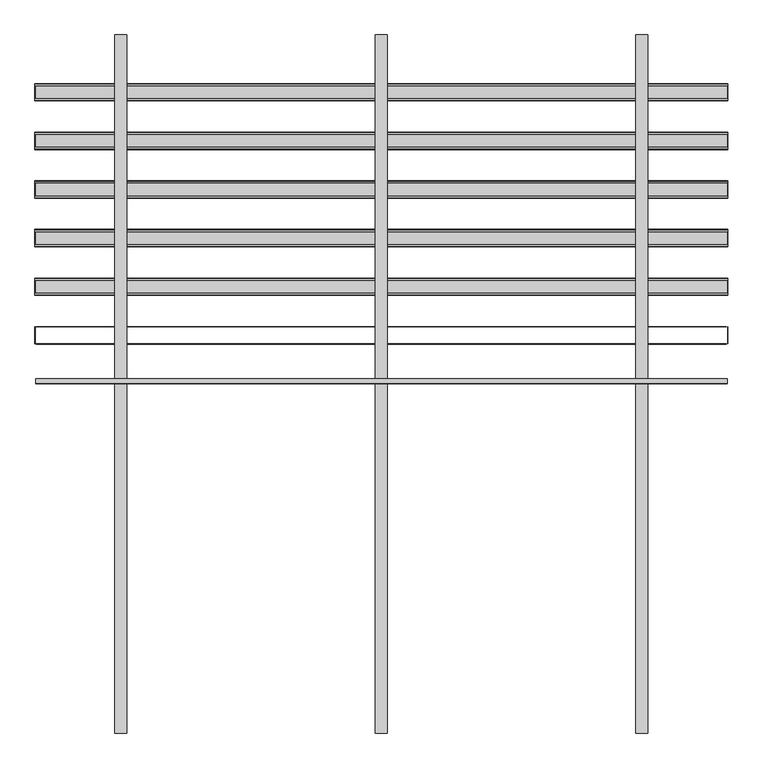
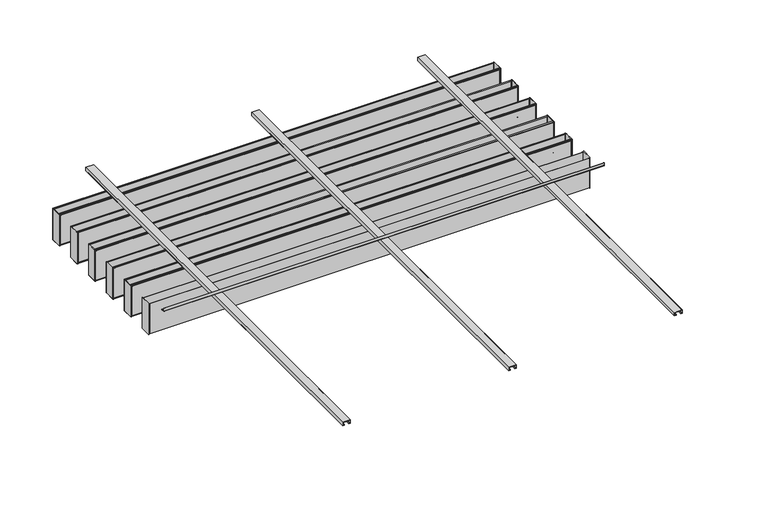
"""IFC4 building model written with IfcOpenShell, lengths in millimetres: proxy geometry, durlum_POLYLAM_KS : durlum_POLYLAM-KS/-S 100."""

from ifc_helpers import new_model, si_unit, point, frame, frame_2d, origin, place, context, project, spatial, polyline, circle_curve, trimmed, segment, composite_curve, outline, extrude, source, transform, mapped, element, save
from ifc_brep_helpers import plane_surface, cylinder_surface, advanced_brep


def generic_models_34059fb2(model_context):
    return source(origin(), model_context, "Body", "SolidModel", [
        extrude(outline(polyline([(2791.0464286, 20.5), (2784.0464286, 20.5), (2784.0464286, 35.0), (2814.0464286, 35.0), (2814.0464286, -35.0), (2784.0464286, -35.0), (2784.0464286, -20.5), (2791.0464286, -20.5), (2791.0464286, -22.0), (2785.5464286, -22.0), (2785.5464286, -33.5), (2812.5464286, -33.5), (2812.5464286, 33.5), (2785.5464286, 33.5), (2785.5464286, 22.0), (2791.0464286, 22.0), (2791.0464286, 20.5)])), frame((0.0, -2010.0, 0.0), z_axis=(0.0, 1.0, 0.0), x_axis=(0.0, 0.0, 1.0)), (0.0, 0.0, 1.0), 4020.0),
        extrude(outline(polyline([(2791.0464286, -1479.5), (2784.0464286, -1479.5), (2784.0464286, -1465.0), (2814.0464286, -1465.0), (2814.0464286, -1535.0), (2784.0464286, -1535.0), (2784.0464286, -1520.5), (2791.0464286, -1520.5), (2791.0464286, -1522.0), (2785.5464286, -1522.0), (2785.5464286, -1533.5), (2812.5464286, -1533.5), (2812.5464286, -1466.5), (2785.5464286, -1466.5), (2785.5464286, -1478.0), (2791.0464286, -1478.0), (2791.0464286, -1479.5)])), frame((0.0, -2010.0, 0.0), z_axis=(0.0, 1.0, 0.0), x_axis=(0.0, 0.0, 1.0)), (0.0, 0.0, 1.0), 4020.0),
        extrude(outline(polyline([(2791.0464286, 1520.5), (2784.0464286, 1520.5), (2784.0464286, 1535.0), (2814.0464286, 1535.0), (2814.0464286, 1465.0), (2784.0464286, 1465.0), (2784.0464286, 1479.5), (2791.0464286, 1479.5), (2791.0464286, 1478.0), (2785.5464286, 1478.0), (2785.5464286, 1466.5), (2812.5464286, 1466.5), (2812.5464286, 1533.5), (2785.5464286, 1533.5), (2785.5464286, 1522.0), (2791.0464286, 1522.0), (2791.0464286, 1520.5)])), frame((0.0, -2010.0, 0.0), z_axis=(0.0, 1.0, 0.0), x_axis=(0.0, 0.0, 1.0)), (0.0, 0.0, 1.0), 4020.0),
        extrude(outline(composite_curve([segment(polyline([(2.0, 2843.9464286), (2.0, 2818.0464286)]), True, "CONTINUOUS"), segment(trimmed(circle_curve(frame_2d((4.0, 2818.0464286)), 2.0), [point((2.0, 2818.0464286))], [point((4.0, 2816.0464286))], True, "CARTESIAN"), True, "CONTINUOUS"), segment(polyline([(4.0, 2816.0464286), (29.9, 2816.0464286), (29.9, 2814.0464286), (4.0, 2814.0464286)]), True, "CONTINUOUS"), segment(trimmed(circle_curve(frame_2d((4.0, 2818.0464286)), 4.0), [point((4.0, 2814.0464286))], [point((0.0, 2818.0464286))], False, "CARTESIAN"), True, "CONTINUOUS"), segment(polyline([(0.0, 2818.0464286), (0.0, 2843.9464286), (2.0, 2843.9464286)]), True, "CONTINUOUS")], self_intersect=False)), frame((-1990.0, 0.0, 0.0), z_axis=(1.0, 0.0, 0.0), x_axis=(0.0, 1.0, 0.0)), (0.0, 0.0, 1.0), 3980.0),
        extrude(outline(polyline([(1986.5, 1729.0), (-1986.5, 1729.0), (-1986.5, 1730.0), (1986.5, 1730.0), (1986.5, 1729.0)])), frame((0.0, 0.0, 2463.4464286), z_axis=(0.0, 0.0, 1.0), x_axis=(1.0, 0.0, 0.0)), (0.0, 0.0, 1.0), 283.0),
        extrude(outline(polyline([(1986.5, 1630.0), (-1986.5, 1630.0), (-1986.5, 1631.0), (1986.5, 1631.0), (1986.5, 1630.0)])), frame((0.0, 0.0, 2463.4464286), z_axis=(0.0, 0.0, 1.0), x_axis=(1.0, 0.0, 0.0)), (0.0, 0.0, 1.0), 283.0),
        extrude(outline(polyline([(1993.0, 1729.0), (1995.0, 1729.0), (1995.0, 1631.0), (1993.0, 1631.0), (1993.0, 1729.0)])), frame((0.0, 0.0, 2455.9464286), z_axis=(0.0, 0.0, 1.0), x_axis=(1.0, 0.0, 0.0)), (0.0, 0.0, 1.0), 298.1604454),
        extrude(outline(polyline([(-1995.0, 1729.0), (-1993.0, 1729.0), (-1993.0, 1631.0), (-1995.0, 1631.0), (-1995.0, 1729.0)])), frame((0.0, 0.0, 2455.9464286), z_axis=(0.0, 0.0, 1.0), x_axis=(1.0, 0.0, 0.0)), (0.0, 0.0, 1.0), 298.1604454),
        advanced_brep(
        [(1995.0, 1728.0, 2754.9464286), (1995.0, 1718.0, 2754.9464286), (1995.0, 1718.0, 2754.106874), (1995.0, 1729.0, 2754.106874), (1995.0, 1729.0, 2455.9464286), (1995.0, 1631.0, 2455.9464286), (1995.0, 1631.0, 2753.8620021), (1995.0, 1642.0, 2753.8620021), (1995.0, 1642.0, 2754.9464286), (1995.0, 1632.0, 2754.9464286), (1995.0, 1630.0, 2752.9464286), (1995.0, 1630.0, 2456.9464286), (1995.0, 1632.0, 2454.9464286), (1995.0, 1728.0, 2454.9464286), (1995.0, 1730.0, 2456.9464286), (1995.0, 1730.0, 2752.9464286), (-1995.0, 1728.0, 2754.9464286), (-1995.0, 1730.0, 2752.9464286), (-1995.0, 1730.0, 2456.9464286), (-1995.0, 1728.0, 2454.9464286), (-1995.0, 1632.0, 2454.9464286), (-1995.0, 1630.0, 2456.9464286), (-1995.0, 1630.0, 2752.9464286), (-1995.0, 1632.0, 2754.9464286), (-1995.0, 1642.0, 2754.9464286), (-1995.0, 1642.0, 2753.8620021), (-1995.0, 1631.0, 2753.8620021), (-1995.0, 1631.0, 2455.9464286), (-1995.0, 1729.0, 2455.9464286), (-1995.0, 1729.0, 2754.106874), (-1995.0, 1718.0, 2754.106874), (-1995.0, 1718.0, 2754.9464286), (-1986.5, 1729.0, 2746.4464286), (1986.5, 1729.0, 2746.4464286), (1986.5, 1729.0, 2463.4464286), (-1986.5, 1729.0, 2463.4464286), (1986.5, 1631.0, 2746.4464286), (-1986.5, 1631.0, 2746.4464286), (-1986.5, 1631.0, 2463.4464286), (1986.5, 1631.0, 2463.4464286), (-1986.5, 1630.0, 2746.4464286), (1986.5, 1630.0, 2746.4464286), (1986.5, 1630.0, 2463.4464286), (-1986.5, 1630.0, 2463.4464286), (1986.5, 1730.0, 2746.4464286), (-1986.5, 1730.0, 2746.4464286), (-1986.5, 1730.0, 2463.4464286), (1986.5, 1730.0, 2463.4464286)],
        [
            (0, 1),
            (1, 2),
            (2, 3),
            (3, 4),
            (4, 5),
            (5, 6),
            (6, 7),
            (7, 8),
            (8, 9),
            (9, 10, circle_curve(frame((1995.0, 1632.0, 2752.9464286), z_axis=(1.0, 0.0, 0.0), x_axis=(0.0, 1.0, 0.0)), 2.0)),
            (10, 11),
            (11, 12, circle_curve(frame((1995.0, 1632.0, 2456.9464286), z_axis=(1.0, 0.0, 0.0), x_axis=(0.0, 1.0, 0.0)), 2.0)),
            (12, 13),
            (13, 14, circle_curve(frame((1995.0, 1728.0, 2456.9464286), z_axis=(1.0, 0.0, 0.0), x_axis=(0.0, 1.0, 0.0)), 2.0)),
            (14, 15),
            (15, 0, circle_curve(frame((1995.0, 1728.0, 2752.9464286), z_axis=(1.0, 0.0, 0.0), x_axis=(0.0, 1.0, 0.0)), 2.0)),
            (16, 17, circle_curve(frame((-1995.0, 1728.0, 2752.9464286), z_axis=(-1.0, 0.0, 0.0), x_axis=(0.0, 1.0, 0.0)), 2.0)),
            (17, 18),
            (18, 19, circle_curve(frame((-1995.0, 1728.0, 2456.9464286), z_axis=(-1.0, 0.0, 0.0), x_axis=(0.0, 1.0, 0.0)), 2.0)),
            (19, 20),
            (20, 21, circle_curve(frame((-1995.0, 1632.0, 2456.9464286), z_axis=(-1.0, 0.0, 0.0), x_axis=(0.0, 1.0, 0.0)), 2.0)),
            (21, 22),
            (22, 23, circle_curve(frame((-1995.0, 1632.0, 2752.9464286), z_axis=(-1.0, 0.0, 0.0), x_axis=(0.0, 1.0, 0.0)), 2.0)),
            (23, 24),
            (24, 25),
            (25, 26),
            (26, 27),
            (27, 28),
            (28, 29),
            (29, 30),
            (30, 31),
            (31, 16),
            (0, 16),
            (31, 1),
            (30, 2),
            (29, 3),
            (28, 4),
            (32, 33),
            (33, 34),
            (34, 35),
            (35, 32),
            (27, 5),
            (26, 6),
            (36, 37),
            (37, 38),
            (38, 39),
            (39, 36),
            (25, 7),
            (24, 8),
            (23, 9),
            (10, 22),
            (21, 11),
            (40, 41),
            (41, 42),
            (42, 43),
            (43, 40),
            (12, 20),
            (19, 13),
            (14, 18),
            (17, 15),
            (44, 45),
            (45, 46),
            (46, 47),
            (47, 44),
            (44, 33),
            (32, 45),
            (36, 41),
            (40, 37),
            (35, 46),
            (43, 38),
            (34, 47),
            (42, 39),
        ],
        [
            plane_surface(frame((1995.0, 1718.0, 2754.9464286), z_axis=(1.0, 0.0, 0.0), x_axis=(0.0, -1.0, 0.0))),
            plane_surface(frame((-1995.0, 1718.0, 2754.9464286), z_axis=(-1.0, 0.0, 0.0), x_axis=(0.0, 1.0, 0.0))),
            plane_surface(frame((1995.0, 1728.0, 2754.9464286), z_axis=(0.0, 0.0, 1.0), x_axis=(-1.0, 0.0, 0.0))),
            plane_surface(frame((1995.0, 1718.0, 2754.9464286), z_axis=(0.0, -1.0, 0.0), x_axis=(-1.0, 0.0, 0.0))),
            plane_surface(frame((1995.0, 1718.0, 2754.106874), z_axis=(0.0, 0.0, -1.0), x_axis=(-1.0, 0.0, 0.0))),
            plane_surface(frame((1995.0, 1729.0, 2754.106874), z_axis=(0.0, -1.0, 0.0), x_axis=(-1.0, 0.0, 0.0))),
            plane_surface(frame((1995.0, 1729.0, 2455.9464286), z_axis=(0.0, 0.0, 1.0), x_axis=(-1.0, 0.0, 0.0))),
            plane_surface(frame((1995.0, 1631.0, 2455.9464286), z_axis=(0.0, 1.0, 0.0), x_axis=(-1.0, 0.0, 0.0))),
            plane_surface(frame((1995.0, 1631.0, 2753.8620021), z_axis=(0.0, 0.0, -1.0), x_axis=(-1.0, 0.0, 0.0))),
            plane_surface(frame((1995.0, 1642.0, 2753.8620021), z_axis=(0.0, 1.0, 0.0), x_axis=(-1.0, 0.0, 0.0))),
            plane_surface(frame((1995.0, 1642.0, 2754.9464286), z_axis=(0.0, 0.0, 1.0), x_axis=(-1.0, 0.0, 0.0))),
            plane_surface(frame((1995.0, 1630.0, 2752.9464286), z_axis=(0.0, -1.0, 0.0), x_axis=(-1.0, 0.0, 0.0))),
            plane_surface(frame((1995.0, 1632.0, 2454.9464286), z_axis=(0.0, 0.0, -1.0), x_axis=(-1.0, 0.0, 0.0))),
            plane_surface(frame((1995.0, 1730.0, 2456.9464286), z_axis=(0.0, 1.0, 0.0), x_axis=(-1.0, 0.0, 0.0))),
            cylinder_surface(frame((-1995.0, 1632.0, 2752.9464286), z_axis=(1.0, 0.0, 0.0), x_axis=(0.0, 1.0, 0.0)), 2.0),
            cylinder_surface(frame((-1995.0, 1632.0, 2456.9464286), z_axis=(1.0, 0.0, 0.0), x_axis=(0.0, 1.0, 0.0)), 2.0),
            cylinder_surface(frame((-1995.0, 1728.0, 2456.9464286), z_axis=(1.0, 0.0, 0.0), x_axis=(0.0, 1.0, 0.0)), 2.0),
            cylinder_surface(frame((-1995.0, 1728.0, 2752.9464286), z_axis=(1.0, 0.0, 0.0), x_axis=(0.0, 1.0, 0.0)), 2.0),
            plane_surface(frame((1986.5, 1630.0, 2746.4464286), z_axis=(0.0, 0.0, -1.0), x_axis=(0.0, 1.0, 0.0))),
            plane_surface(frame((-1986.5, 1630.0, 2746.4464286), z_axis=(1.0, 0.0, 0.0), x_axis=(0.0, 1.0, 0.0))),
            plane_surface(frame((-1986.5, 1630.0, 2463.4464286), z_axis=(0.0, 0.0, 1.0), x_axis=(0.0, 1.0, 0.0))),
            plane_surface(frame((1986.5, 1630.0, 2463.4464286), z_axis=(-1.0, 0.0, 0.0), x_axis=(0.0, 1.0, 0.0))),
        ],
        [
            (0, [[1, 2, 3, 4, 5, 6, 7, 8, 9, 10, 11, 12, 13, 14, 15, 16]]),
            (1, [[17, 18, 19, 20, 21, 22, 23, 24, 25, 26, 27, 28, 29, 30, 31, 32]]),
            (2, [[-1, 33, -32, 34]]),
            (3, [[-2, -34, -31, 35]]),
            (4, [[-3, -35, -30, 36]]),
            (5, [[-4, -36, -29, 37], [38, 39, 40, 41]]),
            (6, [[-5, -37, -28, 42]]),
            (7, [[-6, -42, -27, 43], [44, 45, 46, 47]]),
            (8, [[-7, -43, -26, 48]]),
            (9, [[-8, -48, -25, 49]]),
            (10, [[-9, -49, -24, 50]]),
            (11, [[-11, 51, -22, 52], [53, 54, 55, 56]]),
            (12, [[-13, 57, -20, 58]]),
            (13, [[-15, 59, -18, 60], [61, 62, 63, 64]]),
            (14, [[-10, -50, -23, -51]]),
            (15, [[-12, -52, -21, -57]]),
            (16, [[-14, -58, -19, -59]]),
            (17, [[-16, -60, -17, -33]]),
            (18, [[65, -38, 66, -61]]),
            (18, [[67, -53, 68, -44]]),
            (19, [[-66, -41, 69, -62]]),
            (19, [[-68, -56, 70, -45]]),
            (20, [[-69, -40, 71, -63]]),
            (20, [[-70, -55, 72, -46]]),
            (21, [[-65, -64, -71, -39]]),
            (21, [[-67, -47, -72, -54]]),
        ],
    ),
        extrude(outline(polyline([(1986.5, 1449.0), (-1986.5, 1449.0), (-1986.5, 1450.0), (1986.5, 1450.0), (1986.5, 1449.0)])), frame((0.0, 0.0, 2463.4464286), z_axis=(0.0, 0.0, 1.0), x_axis=(1.0, 0.0, 0.0)), (0.0, 0.0, 1.0), 283.0),
        extrude(outline(polyline([(1986.5, 1350.0), (-1986.5, 1350.0), (-1986.5, 1351.0), (1986.5, 1351.0), (1986.5, 1350.0)])), frame((0.0, 0.0, 2463.4464286), z_axis=(0.0, 0.0, 1.0), x_axis=(1.0, 0.0, 0.0)), (0.0, 0.0, 1.0), 283.0),
        extrude(outline(polyline([(1993.0, 1449.0), (1995.0, 1449.0), (1995.0, 1351.0), (1993.0, 1351.0), (1993.0, 1449.0)])), frame((0.0, 0.0, 2455.9464286), z_axis=(0.0, 0.0, 1.0), x_axis=(1.0, 0.0, 0.0)), (0.0, 0.0, 1.0), 298.1604454),
        extrude(outline(polyline([(-1995.0, 1449.0), (-1993.0, 1449.0), (-1993.0, 1351.0), (-1995.0, 1351.0), (-1995.0, 1449.0)])), frame((0.0, 0.0, 2455.9464286), z_axis=(0.0, 0.0, 1.0), x_axis=(1.0, 0.0, 0.0)), (0.0, 0.0, 1.0), 298.1604454),
        advanced_brep(
        [(1995.0, 1448.0, 2754.9464286), (1995.0, 1438.0, 2754.9464286), (1995.0, 1438.0, 2754.106874), (1995.0, 1449.0, 2754.106874), (1995.0, 1449.0, 2455.9464286), (1995.0, 1351.0, 2455.9464286), (1995.0, 1351.0, 2753.8620021), (1995.0, 1362.0, 2753.8620021), (1995.0, 1362.0, 2754.9464286), (1995.0, 1352.0, 2754.9464286), (1995.0, 1350.0, 2752.9464286), (1995.0, 1350.0, 2456.9464286), (1995.0, 1352.0, 2454.9464286), (1995.0, 1448.0, 2454.9464286), (1995.0, 1450.0, 2456.9464286), (1995.0, 1450.0, 2752.9464286), (-1995.0, 1448.0, 2754.9464286), (-1995.0, 1450.0, 2752.9464286), (-1995.0, 1450.0, 2456.9464286), (-1995.0, 1448.0, 2454.9464286), (-1995.0, 1352.0, 2454.9464286), (-1995.0, 1350.0, 2456.9464286), (-1995.0, 1350.0, 2752.9464286), (-1995.0, 1352.0, 2754.9464286), (-1995.0, 1362.0, 2754.9464286), (-1995.0, 1362.0, 2753.8620021), (-1995.0, 1351.0, 2753.8620021), (-1995.0, 1351.0, 2455.9464286), (-1995.0, 1449.0, 2455.9464286), (-1995.0, 1449.0, 2754.106874), (-1995.0, 1438.0, 2754.106874), (-1995.0, 1438.0, 2754.9464286), (-1986.5, 1449.0, 2746.4464286), (1986.5, 1449.0, 2746.4464286), (1986.5, 1449.0, 2463.4464286), (-1986.5, 1449.0, 2463.4464286), (1986.5, 1351.0, 2746.4464286), (-1986.5, 1351.0, 2746.4464286), (-1986.5, 1351.0, 2463.4464286), (1986.5, 1351.0, 2463.4464286), (-1986.5, 1350.0, 2746.4464286), (1986.5, 1350.0, 2746.4464286), (1986.5, 1350.0, 2463.4464286), (-1986.5, 1350.0, 2463.4464286), (1986.5, 1450.0, 2746.4464286), (-1986.5, 1450.0, 2746.4464286), (-1986.5, 1450.0, 2463.4464286), (1986.5, 1450.0, 2463.4464286)],
        [
            (0, 1),
            (1, 2),
            (2, 3),
            (3, 4),
            (4, 5),
            (5, 6),
            (6, 7),
            (7, 8),
            (8, 9),
            (9, 10, circle_curve(frame((1995.0, 1352.0, 2752.9464286), z_axis=(1.0, 0.0, 0.0), x_axis=(0.0, 1.0, 0.0)), 2.0)),
            (10, 11),
            (11, 12, circle_curve(frame((1995.0, 1352.0, 2456.9464286), z_axis=(1.0, 0.0, 0.0), x_axis=(0.0, 1.0, 0.0)), 2.0)),
            (12, 13),
            (13, 14, circle_curve(frame((1995.0, 1448.0, 2456.9464286), z_axis=(1.0, 0.0, 0.0), x_axis=(0.0, 1.0, 0.0)), 2.0)),
            (14, 15),
            (15, 0, circle_curve(frame((1995.0, 1448.0, 2752.9464286), z_axis=(1.0, 0.0, 0.0), x_axis=(0.0, 1.0, 0.0)), 2.0)),
            (16, 17, circle_curve(frame((-1995.0, 1448.0, 2752.9464286), z_axis=(-1.0, 0.0, 0.0), x_axis=(0.0, 1.0, 0.0)), 2.0)),
            (17, 18),
            (18, 19, circle_curve(frame((-1995.0, 1448.0, 2456.9464286), z_axis=(-1.0, 0.0, 0.0), x_axis=(0.0, 1.0, 0.0)), 2.0)),
            (19, 20),
            (20, 21, circle_curve(frame((-1995.0, 1352.0, 2456.9464286), z_axis=(-1.0, 0.0, 0.0), x_axis=(0.0, 1.0, 0.0)), 2.0)),
            (21, 22),
            (22, 23, circle_curve(frame((-1995.0, 1352.0, 2752.9464286), z_axis=(-1.0, 0.0, 0.0), x_axis=(0.0, 1.0, 0.0)), 2.0)),
            (23, 24),
            (24, 25),
            (25, 26),
            (26, 27),
            (27, 28),
            (28, 29),
            (29, 30),
            (30, 31),
            (31, 16),
            (0, 16),
            (31, 1),
            (30, 2),
            (29, 3),
            (28, 4),
            (32, 33),
            (33, 34),
            (34, 35),
            (35, 32),
            (27, 5),
            (26, 6),
            (36, 37),
            (37, 38),
            (38, 39),
            (39, 36),
            (25, 7),
            (24, 8),
            (23, 9),
            (10, 22),
            (21, 11),
            (40, 41),
            (41, 42),
            (42, 43),
            (43, 40),
            (12, 20),
            (19, 13),
            (14, 18),
            (17, 15),
            (44, 45),
            (45, 46),
            (46, 47),
            (47, 44),
            (44, 33),
            (32, 45),
            (36, 41),
            (40, 37),
            (35, 46),
            (43, 38),
            (34, 47),
            (42, 39),
        ],
        [
            plane_surface(frame((1995.0, 1438.0, 2754.9464286), z_axis=(1.0, 0.0, 0.0), x_axis=(0.0, -1.0, 0.0))),
            plane_surface(frame((-1995.0, 1438.0, 2754.9464286), z_axis=(-1.0, 0.0, 0.0), x_axis=(0.0, 1.0, 0.0))),
            plane_surface(frame((1995.0, 1448.0, 2754.9464286), z_axis=(0.0, 0.0, 1.0), x_axis=(-1.0, 0.0, 0.0))),
            plane_surface(frame((1995.0, 1438.0, 2754.9464286), z_axis=(0.0, -1.0, 0.0), x_axis=(-1.0, 0.0, 0.0))),
            plane_surface(frame((1995.0, 1438.0, 2754.106874), z_axis=(0.0, 0.0, -1.0), x_axis=(-1.0, 0.0, 0.0))),
            plane_surface(frame((1995.0, 1449.0, 2754.106874), z_axis=(0.0, -1.0, 0.0), x_axis=(-1.0, 0.0, 0.0))),
            plane_surface(frame((1995.0, 1449.0, 2455.9464286), z_axis=(0.0, 0.0, 1.0), x_axis=(-1.0, 0.0, 0.0))),
            plane_surface(frame((1995.0, 1351.0, 2455.9464286), z_axis=(0.0, 1.0, 0.0), x_axis=(-1.0, 0.0, 0.0))),
            plane_surface(frame((1995.0, 1351.0, 2753.8620021), z_axis=(0.0, 0.0, -1.0), x_axis=(-1.0, 0.0, 0.0))),
            plane_surface(frame((1995.0, 1362.0, 2753.8620021), z_axis=(0.0, 1.0, 0.0), x_axis=(-1.0, 0.0, 0.0))),
            plane_surface(frame((1995.0, 1362.0, 2754.9464286), z_axis=(0.0, 0.0, 1.0), x_axis=(-1.0, 0.0, 0.0))),
            plane_surface(frame((1995.0, 1350.0, 2752.9464286), z_axis=(0.0, -1.0, 0.0), x_axis=(-1.0, 0.0, 0.0))),
            plane_surface(frame((1995.0, 1352.0, 2454.9464286), z_axis=(0.0, 0.0, -1.0), x_axis=(-1.0, 0.0, 0.0))),
            plane_surface(frame((1995.0, 1450.0, 2456.9464286), z_axis=(0.0, 1.0, 0.0), x_axis=(-1.0, 0.0, 0.0))),
            cylinder_surface(frame((-1995.0, 1352.0, 2752.9464286), z_axis=(1.0, 0.0, 0.0), x_axis=(0.0, 1.0, 0.0)), 2.0),
            cylinder_surface(frame((-1995.0, 1352.0, 2456.9464286), z_axis=(1.0, 0.0, 0.0), x_axis=(0.0, 1.0, 0.0)), 2.0),
            cylinder_surface(frame((-1995.0, 1448.0, 2456.9464286), z_axis=(1.0, 0.0, 0.0), x_axis=(0.0, 1.0, 0.0)), 2.0),
            cylinder_surface(frame((-1995.0, 1448.0, 2752.9464286), z_axis=(1.0, 0.0, 0.0), x_axis=(0.0, 1.0, 0.0)), 2.0),
            plane_surface(frame((1986.5, 1350.0, 2746.4464286), z_axis=(0.0, 0.0, -1.0), x_axis=(0.0, 1.0, 0.0))),
            plane_surface(frame((-1986.5, 1350.0, 2746.4464286), z_axis=(1.0, 0.0, 0.0), x_axis=(0.0, 1.0, 0.0))),
            plane_surface(frame((-1986.5, 1350.0, 2463.4464286), z_axis=(0.0, 0.0, 1.0), x_axis=(0.0, 1.0, 0.0))),
            plane_surface(frame((1986.5, 1350.0, 2463.4464286), z_axis=(-1.0, 0.0, 0.0), x_axis=(0.0, 1.0, 0.0))),
        ],
        [
            (0, [[1, 2, 3, 4, 5, 6, 7, 8, 9, 10, 11, 12, 13, 14, 15, 16]]),
            (1, [[17, 18, 19, 20, 21, 22, 23, 24, 25, 26, 27, 28, 29, 30, 31, 32]]),
            (2, [[-1, 33, -32, 34]]),
            (3, [[-2, -34, -31, 35]]),
            (4, [[-3, -35, -30, 36]]),
            (5, [[-4, -36, -29, 37], [38, 39, 40, 41]]),
            (6, [[-5, -37, -28, 42]]),
            (7, [[-6, -42, -27, 43], [44, 45, 46, 47]]),
            (8, [[-7, -43, -26, 48]]),
            (9, [[-8, -48, -25, 49]]),
            (10, [[-9, -49, -24, 50]]),
            (11, [[-11, 51, -22, 52], [53, 54, 55, 56]]),
            (12, [[-13, 57, -20, 58]]),
            (13, [[-15, 59, -18, 60], [61, 62, 63, 64]]),
            (14, [[-10, -50, -23, -51]]),
            (15, [[-12, -52, -21, -57]]),
            (16, [[-14, -58, -19, -59]]),
            (17, [[-16, -60, -17, -33]]),
            (18, [[65, -38, 66, -61]]),
            (18, [[67, -53, 68, -44]]),
            (19, [[-66, -41, 69, -62]]),
            (19, [[-68, -56, 70, -45]]),
            (20, [[-69, -40, 71, -63]]),
            (20, [[-70, -55, 72, -46]]),
            (21, [[-65, -64, -71, -39]]),
            (21, [[-67, -47, -72, -54]]),
        ],
    ),
        extrude(outline(polyline([(1986.5, 1169.0), (-1986.5, 1169.0), (-1986.5, 1170.0), (1986.5, 1170.0), (1986.5, 1169.0)])), frame((0.0, 0.0, 2463.4464286), z_axis=(0.0, 0.0, 1.0), x_axis=(1.0, 0.0, 0.0)), (0.0, 0.0, 1.0), 283.0),
        extrude(outline(polyline([(1986.5, 1070.0), (-1986.5, 1070.0), (-1986.5, 1071.0), (1986.5, 1071.0), (1986.5, 1070.0)])), frame((0.0, 0.0, 2463.4464286), z_axis=(0.0, 0.0, 1.0), x_axis=(1.0, 0.0, 0.0)), (0.0, 0.0, 1.0), 283.0),
        extrude(outline(polyline([(1993.0, 1169.0), (1995.0, 1169.0), (1995.0, 1071.0), (1993.0, 1071.0), (1993.0, 1169.0)])), frame((0.0, 0.0, 2455.9464286), z_axis=(0.0, 0.0, 1.0), x_axis=(1.0, 0.0, 0.0)), (0.0, 0.0, 1.0), 298.1604454),
        extrude(outline(polyline([(-1995.0, 1169.0), (-1993.0, 1169.0), (-1993.0, 1071.0), (-1995.0, 1071.0), (-1995.0, 1169.0)])), frame((0.0, 0.0, 2455.9464286), z_axis=(0.0, 0.0, 1.0), x_axis=(1.0, 0.0, 0.0)), (0.0, 0.0, 1.0), 298.1604454),
        advanced_brep(
        [(1995.0, 1168.0, 2754.9464286), (1995.0, 1158.0, 2754.9464286), (1995.0, 1158.0, 2754.106874), (1995.0, 1169.0, 2754.106874), (1995.0, 1169.0, 2455.9464286), (1995.0, 1071.0, 2455.9464286), (1995.0, 1071.0, 2753.8620021), (1995.0, 1082.0, 2753.8620021), (1995.0, 1082.0, 2754.9464286), (1995.0, 1072.0, 2754.9464286), (1995.0, 1070.0, 2752.9464286), (1995.0, 1070.0, 2456.9464286), (1995.0, 1072.0, 2454.9464286), (1995.0, 1168.0, 2454.9464286), (1995.0, 1170.0, 2456.9464286), (1995.0, 1170.0, 2752.9464286), (-1995.0, 1168.0, 2754.9464286), (-1995.0, 1170.0, 2752.9464286), (-1995.0, 1170.0, 2456.9464286), (-1995.0, 1168.0, 2454.9464286), (-1995.0, 1072.0, 2454.9464286), (-1995.0, 1070.0, 2456.9464286), (-1995.0, 1070.0, 2752.9464286), (-1995.0, 1072.0, 2754.9464286), (-1995.0, 1082.0, 2754.9464286), (-1995.0, 1082.0, 2753.8620021), (-1995.0, 1071.0, 2753.8620021), (-1995.0, 1071.0, 2455.9464286), (-1995.0, 1169.0, 2455.9464286), (-1995.0, 1169.0, 2754.106874), (-1995.0, 1158.0, 2754.106874), (-1995.0, 1158.0, 2754.9464286), (-1986.5, 1169.0, 2746.4464286), (1986.5, 1169.0, 2746.4464286), (1986.5, 1169.0, 2463.4464286), (-1986.5, 1169.0, 2463.4464286), (1986.5, 1071.0, 2746.4464286), (-1986.5, 1071.0, 2746.4464286), (-1986.5, 1071.0, 2463.4464286), (1986.5, 1071.0, 2463.4464286), (-1986.5, 1070.0, 2746.4464286), (1986.5, 1070.0, 2746.4464286), (1986.5, 1070.0, 2463.4464286), (-1986.5, 1070.0, 2463.4464286), (1986.5, 1170.0, 2746.4464286), (-1986.5, 1170.0, 2746.4464286), (-1986.5, 1170.0, 2463.4464286), (1986.5, 1170.0, 2463.4464286)],
        [
            (0, 1),
            (1, 2),
            (2, 3),
            (3, 4),
            (4, 5),
            (5, 6),
            (6, 7),
            (7, 8),
            (8, 9),
            (9, 10, circle_curve(frame((1995.0, 1072.0, 2752.9464286), z_axis=(1.0, 0.0, 0.0), x_axis=(0.0, 1.0, 0.0)), 2.0)),
            (10, 11),
            (11, 12, circle_curve(frame((1995.0, 1072.0, 2456.9464286), z_axis=(1.0, 0.0, 0.0), x_axis=(0.0, 1.0, 0.0)), 2.0)),
            (12, 13),
            (13, 14, circle_curve(frame((1995.0, 1168.0, 2456.9464286), z_axis=(1.0, 0.0, 0.0), x_axis=(0.0, 1.0, 0.0)), 2.0)),
            (14, 15),
            (15, 0, circle_curve(frame((1995.0, 1168.0, 2752.9464286), z_axis=(1.0, 0.0, 0.0), x_axis=(0.0, 1.0, 0.0)), 2.0)),
            (16, 17, circle_curve(frame((-1995.0, 1168.0, 2752.9464286), z_axis=(-1.0, 0.0, 0.0), x_axis=(0.0, 1.0, 0.0)), 2.0)),
            (17, 18),
            (18, 19, circle_curve(frame((-1995.0, 1168.0, 2456.9464286), z_axis=(-1.0, 0.0, 0.0), x_axis=(0.0, 1.0, 0.0)), 2.0)),
            (19, 20),
            (20, 21, circle_curve(frame((-1995.0, 1072.0, 2456.9464286), z_axis=(-1.0, 0.0, 0.0), x_axis=(0.0, 1.0, 0.0)), 2.0)),
            (21, 22),
            (22, 23, circle_curve(frame((-1995.0, 1072.0, 2752.9464286), z_axis=(-1.0, 0.0, 0.0), x_axis=(0.0, 1.0, 0.0)), 2.0)),
            (23, 24),
            (24, 25),
            (25, 26),
            (26, 27),
            (27, 28),
            (28, 29),
            (29, 30),
            (30, 31),
            (31, 16),
            (0, 16),
            (31, 1),
            (30, 2),
            (29, 3),
            (28, 4),
            (32, 33),
            (33, 34),
            (34, 35),
            (35, 32),
            (27, 5),
            (26, 6),
            (36, 37),
            (37, 38),
            (38, 39),
            (39, 36),
            (25, 7),
            (24, 8),
            (23, 9),
            (10, 22),
            (21, 11),
            (40, 41),
            (41, 42),
            (42, 43),
            (43, 40),
            (12, 20),
            (19, 13),
            (14, 18),
            (17, 15),
            (44, 45),
            (45, 46),
            (46, 47),
            (47, 44),
            (44, 33),
            (32, 45),
            (36, 41),
            (40, 37),
            (35, 46),
            (43, 38),
            (34, 47),
            (42, 39),
        ],
        [
            plane_surface(frame((1995.0, 1158.0, 2754.9464286), z_axis=(1.0, 0.0, 0.0), x_axis=(0.0, -1.0, 0.0))),
            plane_surface(frame((-1995.0, 1158.0, 2754.9464286), z_axis=(-1.0, 0.0, 0.0), x_axis=(0.0, 1.0, 0.0))),
            plane_surface(frame((1995.0, 1168.0, 2754.9464286), z_axis=(0.0, 0.0, 1.0), x_axis=(-1.0, 0.0, 0.0))),
            plane_surface(frame((1995.0, 1158.0, 2754.9464286), z_axis=(0.0, -1.0, 0.0), x_axis=(-1.0, 0.0, 0.0))),
            plane_surface(frame((1995.0, 1158.0, 2754.106874), z_axis=(0.0, 0.0, -1.0), x_axis=(-1.0, 0.0, 0.0))),
            plane_surface(frame((1995.0, 1169.0, 2754.106874), z_axis=(0.0, -1.0, 0.0), x_axis=(-1.0, 0.0, 0.0))),
            plane_surface(frame((1995.0, 1169.0, 2455.9464286), z_axis=(0.0, 0.0, 1.0), x_axis=(-1.0, 0.0, 0.0))),
            plane_surface(frame((1995.0, 1071.0, 2455.9464286), z_axis=(0.0, 1.0, 0.0), x_axis=(-1.0, 0.0, 0.0))),
            plane_surface(frame((1995.0, 1071.0, 2753.8620021), z_axis=(0.0, 0.0, -1.0), x_axis=(-1.0, 0.0, 0.0))),
            plane_surface(frame((1995.0, 1082.0, 2753.8620021), z_axis=(0.0, 1.0, 0.0), x_axis=(-1.0, 0.0, 0.0))),
            plane_surface(frame((1995.0, 1082.0, 2754.9464286), z_axis=(0.0, 0.0, 1.0), x_axis=(-1.0, 0.0, 0.0))),
            plane_surface(frame((1995.0, 1070.0, 2752.9464286), z_axis=(0.0, -1.0, 0.0), x_axis=(-1.0, 0.0, 0.0))),
            plane_surface(frame((1995.0, 1072.0, 2454.9464286), z_axis=(0.0, 0.0, -1.0), x_axis=(-1.0, 0.0, 0.0))),
            plane_surface(frame((1995.0, 1170.0, 2456.9464286), z_axis=(0.0, 1.0, 0.0), x_axis=(-1.0, 0.0, 0.0))),
            cylinder_surface(frame((-1995.0, 1072.0, 2752.9464286), z_axis=(1.0, 0.0, 0.0), x_axis=(0.0, 1.0, 0.0)), 2.0),
            cylinder_surface(frame((-1995.0, 1072.0, 2456.9464286), z_axis=(1.0, 0.0, 0.0), x_axis=(0.0, 1.0, 0.0)), 2.0),
            cylinder_surface(frame((-1995.0, 1168.0, 2456.9464286), z_axis=(1.0, 0.0, 0.0), x_axis=(0.0, 1.0, 0.0)), 2.0),
            cylinder_surface(frame((-1995.0, 1168.0, 2752.9464286), z_axis=(1.0, 0.0, 0.0), x_axis=(0.0, 1.0, 0.0)), 2.0),
            plane_surface(frame((1986.5, 1070.0, 2746.4464286), z_axis=(0.0, 0.0, -1.0), x_axis=(0.0, 1.0, 0.0))),
            plane_surface(frame((-1986.5, 1070.0, 2746.4464286), z_axis=(1.0, 0.0, 0.0), x_axis=(0.0, 1.0, 0.0))),
            plane_surface(frame((-1986.5, 1070.0, 2463.4464286), z_axis=(0.0, 0.0, 1.0), x_axis=(0.0, 1.0, 0.0))),
            plane_surface(frame((1986.5, 1070.0, 2463.4464286), z_axis=(-1.0, 0.0, 0.0), x_axis=(0.0, 1.0, 0.0))),
        ],
        [
            (0, [[1, 2, 3, 4, 5, 6, 7, 8, 9, 10, 11, 12, 13, 14, 15, 16]]),
            (1, [[17, 18, 19, 20, 21, 22, 23, 24, 25, 26, 27, 28, 29, 30, 31, 32]]),
            (2, [[-1, 33, -32, 34]]),
            (3, [[-2, -34, -31, 35]]),
            (4, [[-3, -35, -30, 36]]),
            (5, [[-4, -36, -29, 37], [38, 39, 40, 41]]),
            (6, [[-5, -37, -28, 42]]),
            (7, [[-6, -42, -27, 43], [44, 45, 46, 47]]),
            (8, [[-7, -43, -26, 48]]),
            (9, [[-8, -48, -25, 49]]),
            (10, [[-9, -49, -24, 50]]),
            (11, [[-11, 51, -22, 52], [53, 54, 55, 56]]),
            (12, [[-13, 57, -20, 58]]),
            (13, [[-15, 59, -18, 60], [61, 62, 63, 64]]),
            (14, [[-10, -50, -23, -51]]),
            (15, [[-12, -52, -21, -57]]),
            (16, [[-14, -58, -19, -59]]),
            (17, [[-16, -60, -17, -33]]),
            (18, [[65, -38, 66, -61]]),
            (18, [[67, -53, 68, -44]]),
            (19, [[-66, -41, 69, -62]]),
            (19, [[-68, -56, 70, -45]]),
            (20, [[-69, -40, 71, -63]]),
            (20, [[-70, -55, 72, -46]]),
            (21, [[-65, -64, -71, -39]]),
            (21, [[-67, -47, -72, -54]]),
        ],
    ),
        extrude(outline(polyline([(1986.5, 889.0), (-1986.5, 889.0), (-1986.5, 890.0), (1986.5, 890.0), (1986.5, 889.0)])), frame((0.0, 0.0, 2463.4464286), z_axis=(0.0, 0.0, 1.0), x_axis=(1.0, 0.0, 0.0)), (0.0, 0.0, 1.0), 283.0),
        extrude(outline(polyline([(1986.5, 790.0), (-1986.5, 790.0), (-1986.5, 791.0), (1986.5, 791.0), (1986.5, 790.0)])), frame((0.0, 0.0, 2463.4464286), z_axis=(0.0, 0.0, 1.0), x_axis=(1.0, 0.0, 0.0)), (0.0, 0.0, 1.0), 283.0),
        extrude(outline(polyline([(1993.0, 889.0), (1995.0, 889.0), (1995.0, 791.0), (1993.0, 791.0), (1993.0, 889.0)])), frame((0.0, 0.0, 2455.9464286), z_axis=(0.0, 0.0, 1.0), x_axis=(1.0, 0.0, 0.0)), (0.0, 0.0, 1.0), 298.1604454),
        extrude(outline(polyline([(-1995.0, 889.0), (-1993.0, 889.0), (-1993.0, 791.0), (-1995.0, 791.0), (-1995.0, 889.0)])), frame((0.0, 0.0, 2455.9464286), z_axis=(0.0, 0.0, 1.0), x_axis=(1.0, 0.0, 0.0)), (0.0, 0.0, 1.0), 298.1604454),
        advanced_brep(
        [(1995.0, 888.0, 2754.9464286), (1995.0, 878.0, 2754.9464286), (1995.0, 878.0, 2754.106874), (1995.0, 889.0, 2754.106874), (1995.0, 889.0, 2455.9464286), (1995.0, 791.0, 2455.9464286), (1995.0, 791.0, 2753.8620021), (1995.0, 802.0, 2753.8620021), (1995.0, 802.0, 2754.9464286), (1995.0, 792.0, 2754.9464286), (1995.0, 790.0, 2752.9464286), (1995.0, 790.0, 2456.9464286), (1995.0, 792.0, 2454.9464286), (1995.0, 888.0, 2454.9464286), (1995.0, 890.0, 2456.9464286), (1995.0, 890.0, 2752.9464286), (-1995.0, 888.0, 2754.9464286), (-1995.0, 890.0, 2752.9464286), (-1995.0, 890.0, 2456.9464286), (-1995.0, 888.0, 2454.9464286), (-1995.0, 792.0, 2454.9464286), (-1995.0, 790.0, 2456.9464286), (-1995.0, 790.0, 2752.9464286), (-1995.0, 792.0, 2754.9464286), (-1995.0, 802.0, 2754.9464286), (-1995.0, 802.0, 2753.8620021), (-1995.0, 791.0, 2753.8620021), (-1995.0, 791.0, 2455.9464286), (-1995.0, 889.0, 2455.9464286), (-1995.0, 889.0, 2754.106874), (-1995.0, 878.0, 2754.106874), (-1995.0, 878.0, 2754.9464286), (-1986.5, 889.0, 2746.4464286), (1986.5, 889.0, 2746.4464286), (1986.5, 889.0, 2463.4464286), (-1986.5, 889.0, 2463.4464286), (1986.5, 791.0, 2746.4464286), (-1986.5, 791.0, 2746.4464286), (-1986.5, 791.0, 2463.4464286), (1986.5, 791.0, 2463.4464286), (-1986.5, 790.0, 2746.4464286), (1986.5, 790.0, 2746.4464286), (1986.5, 790.0, 2463.4464286), (-1986.5, 790.0, 2463.4464286), (1986.5, 890.0, 2746.4464286), (-1986.5, 890.0, 2746.4464286), (-1986.5, 890.0, 2463.4464286), (1986.5, 890.0, 2463.4464286)],
        [
            (0, 1),
            (1, 2),
            (2, 3),
            (3, 4),
            (4, 5),
            (5, 6),
            (6, 7),
            (7, 8),
            (8, 9),
            (9, 10, circle_curve(frame((1995.0, 792.0, 2752.9464286), z_axis=(1.0, 0.0, 0.0), x_axis=(0.0, 1.0, 0.0)), 2.0)),
            (10, 11),
            (11, 12, circle_curve(frame((1995.0, 792.0, 2456.9464286), z_axis=(1.0, 0.0, 0.0), x_axis=(0.0, 1.0, 0.0)), 2.0)),
            (12, 13),
            (13, 14, circle_curve(frame((1995.0, 888.0, 2456.9464286), z_axis=(1.0, 0.0, 0.0), x_axis=(0.0, 1.0, 0.0)), 2.0)),
            (14, 15),
            (15, 0, circle_curve(frame((1995.0, 888.0, 2752.9464286), z_axis=(1.0, 0.0, 0.0), x_axis=(0.0, 1.0, 0.0)), 2.0)),
            (16, 17, circle_curve(frame((-1995.0, 888.0, 2752.9464286), z_axis=(-1.0, 0.0, 0.0), x_axis=(0.0, 1.0, 0.0)), 2.0)),
            (17, 18),
            (18, 19, circle_curve(frame((-1995.0, 888.0, 2456.9464286), z_axis=(-1.0, 0.0, 0.0), x_axis=(0.0, 1.0, 0.0)), 2.0)),
            (19, 20),
            (20, 21, circle_curve(frame((-1995.0, 792.0, 2456.9464286), z_axis=(-1.0, 0.0, 0.0), x_axis=(0.0, 1.0, 0.0)), 2.0)),
            (21, 22),
            (22, 23, circle_curve(frame((-1995.0, 792.0, 2752.9464286), z_axis=(-1.0, 0.0, 0.0), x_axis=(0.0, 1.0, 0.0)), 2.0)),
            (23, 24),
            (24, 25),
            (25, 26),
            (26, 27),
            (27, 28),
            (28, 29),
            (29, 30),
            (30, 31),
            (31, 16),
            (0, 16),
            (31, 1),
            (30, 2),
            (29, 3),
            (28, 4),
            (32, 33),
            (33, 34),
            (34, 35),
            (35, 32),
            (27, 5),
            (26, 6),
            (36, 37),
            (37, 38),
            (38, 39),
            (39, 36),
            (25, 7),
            (24, 8),
            (23, 9),
            (10, 22),
            (21, 11),
            (40, 41),
            (41, 42),
            (42, 43),
            (43, 40),
            (12, 20),
            (19, 13),
            (14, 18),
            (17, 15),
            (44, 45),
            (45, 46),
            (46, 47),
            (47, 44),
            (44, 33),
            (32, 45),
            (36, 41),
            (40, 37),
            (35, 46),
            (43, 38),
            (34, 47),
            (42, 39),
        ],
        [
            plane_surface(frame((1995.0, 878.0, 2754.9464286), z_axis=(1.0, 0.0, 0.0), x_axis=(0.0, -1.0, 0.0))),
            plane_surface(frame((-1995.0, 878.0, 2754.9464286), z_axis=(-1.0, 0.0, 0.0), x_axis=(0.0, 1.0, 0.0))),
            plane_surface(frame((1995.0, 888.0, 2754.9464286), z_axis=(0.0, 0.0, 1.0), x_axis=(-1.0, 0.0, 0.0))),
            plane_surface(frame((1995.0, 878.0, 2754.9464286), z_axis=(0.0, -1.0, 0.0), x_axis=(-1.0, 0.0, 0.0))),
            plane_surface(frame((1995.0, 878.0, 2754.106874), z_axis=(0.0, 0.0, -1.0), x_axis=(-1.0, 0.0, 0.0))),
            plane_surface(frame((1995.0, 889.0, 2754.106874), z_axis=(0.0, -1.0, 0.0), x_axis=(-1.0, 0.0, 0.0))),
            plane_surface(frame((1995.0, 889.0, 2455.9464286), z_axis=(0.0, 0.0, 1.0), x_axis=(-1.0, 0.0, 0.0))),
            plane_surface(frame((1995.0, 791.0, 2455.9464286), z_axis=(0.0, 1.0, 0.0), x_axis=(-1.0, 0.0, 0.0))),
            plane_surface(frame((1995.0, 791.0, 2753.8620021), z_axis=(0.0, 0.0, -1.0), x_axis=(-1.0, 0.0, 0.0))),
            plane_surface(frame((1995.0, 802.0, 2753.8620021), z_axis=(0.0, 1.0, 0.0), x_axis=(-1.0, 0.0, 0.0))),
            plane_surface(frame((1995.0, 802.0, 2754.9464286), z_axis=(0.0, 0.0, 1.0), x_axis=(-1.0, 0.0, 0.0))),
            plane_surface(frame((1995.0, 790.0, 2752.9464286), z_axis=(0.0, -1.0, 0.0), x_axis=(-1.0, 0.0, 0.0))),
            plane_surface(frame((1995.0, 792.0, 2454.9464286), z_axis=(0.0, 0.0, -1.0), x_axis=(-1.0, 0.0, 0.0))),
            plane_surface(frame((1995.0, 890.0, 2456.9464286), z_axis=(0.0, 1.0, 0.0), x_axis=(-1.0, 0.0, 0.0))),
            cylinder_surface(frame((-1995.0, 792.0, 2752.9464286), z_axis=(1.0, 0.0, 0.0), x_axis=(0.0, 1.0, 0.0)), 2.0),
            cylinder_surface(frame((-1995.0, 792.0, 2456.9464286), z_axis=(1.0, 0.0, 0.0), x_axis=(0.0, 1.0, 0.0)), 2.0),
            cylinder_surface(frame((-1995.0, 888.0, 2456.9464286), z_axis=(1.0, 0.0, 0.0), x_axis=(0.0, 1.0, 0.0)), 2.0),
            cylinder_surface(frame((-1995.0, 888.0, 2752.9464286), z_axis=(1.0, 0.0, 0.0), x_axis=(0.0, 1.0, 0.0)), 2.0),
            plane_surface(frame((1986.5, 790.0, 2746.4464286), z_axis=(0.0, 0.0, -1.0), x_axis=(0.0, 1.0, 0.0))),
            plane_surface(frame((-1986.5, 790.0, 2746.4464286), z_axis=(1.0, 0.0, 0.0), x_axis=(0.0, 1.0, 0.0))),
            plane_surface(frame((-1986.5, 790.0, 2463.4464286), z_axis=(0.0, 0.0, 1.0), x_axis=(0.0, 1.0, 0.0))),
            plane_surface(frame((1986.5, 790.0, 2463.4464286), z_axis=(-1.0, 0.0, 0.0), x_axis=(0.0, 1.0, 0.0))),
        ],
        [
            (0, [[1, 2, 3, 4, 5, 6, 7, 8, 9, 10, 11, 12, 13, 14, 15, 16]]),
            (1, [[17, 18, 19, 20, 21, 22, 23, 24, 25, 26, 27, 28, 29, 30, 31, 32]]),
            (2, [[-1, 33, -32, 34]]),
            (3, [[-2, -34, -31, 35]]),
            (4, [[-3, -35, -30, 36]]),
            (5, [[-4, -36, -29, 37], [38, 39, 40, 41]]),
            (6, [[-5, -37, -28, 42]]),
            (7, [[-6, -42, -27, 43], [44, 45, 46, 47]]),
            (8, [[-7, -43, -26, 48]]),
            (9, [[-8, -48, -25, 49]]),
            (10, [[-9, -49, -24, 50]]),
            (11, [[-11, 51, -22, 52], [53, 54, 55, 56]]),
            (12, [[-13, 57, -20, 58]]),
            (13, [[-15, 59, -18, 60], [61, 62, 63, 64]]),
            (14, [[-10, -50, -23, -51]]),
            (15, [[-12, -52, -21, -57]]),
            (16, [[-14, -58, -19, -59]]),
            (17, [[-16, -60, -17, -33]]),
            (18, [[65, -38, 66, -61]]),
            (18, [[67, -53, 68, -44]]),
            (19, [[-66, -41, 69, -62]]),
            (19, [[-68, -56, 70, -45]]),
            (20, [[-69, -40, 71, -63]]),
            (20, [[-70, -55, 72, -46]]),
            (21, [[-65, -64, -71, -39]]),
            (21, [[-67, -47, -72, -54]]),
        ],
    ),
        extrude(outline(polyline([(1986.5, 609.0), (-1986.5, 609.0), (-1986.5, 610.0), (1986.5, 610.0), (1986.5, 609.0)])), frame((0.0, 0.0, 2463.4464286), z_axis=(0.0, 0.0, 1.0), x_axis=(1.0, 0.0, 0.0)), (0.0, 0.0, 1.0), 283.0),
        extrude(outline(polyline([(1986.5, 510.0), (-1986.5, 510.0), (-1986.5, 511.0), (1986.5, 511.0), (1986.5, 510.0)])), frame((0.0, 0.0, 2463.4464286), z_axis=(0.0, 0.0, 1.0), x_axis=(1.0, 0.0, 0.0)), (0.0, 0.0, 1.0), 283.0),
        extrude(outline(polyline([(1993.0, 609.0), (1995.0, 609.0), (1995.0, 511.0), (1993.0, 511.0), (1993.0, 609.0)])), frame((0.0, 0.0, 2455.9464286), z_axis=(0.0, 0.0, 1.0), x_axis=(1.0, 0.0, 0.0)), (0.0, 0.0, 1.0), 298.1604454),
        extrude(outline(polyline([(-1995.0, 609.0), (-1993.0, 609.0), (-1993.0, 511.0), (-1995.0, 511.0), (-1995.0, 609.0)])), frame((0.0, 0.0, 2455.9464286), z_axis=(0.0, 0.0, 1.0), x_axis=(1.0, 0.0, 0.0)), (0.0, 0.0, 1.0), 298.1604454),
        advanced_brep(
        [(1995.0, 608.0, 2754.9464286), (1995.0, 598.0, 2754.9464286), (1995.0, 598.0, 2754.106874), (1995.0, 609.0, 2754.106874), (1995.0, 609.0, 2455.9464286), (1995.0, 511.0, 2455.9464286), (1995.0, 511.0, 2753.8620021), (1995.0, 522.0, 2753.8620021), (1995.0, 522.0, 2754.9464286), (1995.0, 512.0, 2754.9464286), (1995.0, 510.0, 2752.9464286), (1995.0, 510.0, 2456.9464286), (1995.0, 512.0, 2454.9464286), (1995.0, 608.0, 2454.9464286), (1995.0, 610.0, 2456.9464286), (1995.0, 610.0, 2752.9464286), (-1995.0, 608.0, 2754.9464286), (-1995.0, 610.0, 2752.9464286), (-1995.0, 610.0, 2456.9464286), (-1995.0, 608.0, 2454.9464286), (-1995.0, 512.0, 2454.9464286), (-1995.0, 510.0, 2456.9464286), (-1995.0, 510.0, 2752.9464286), (-1995.0, 512.0, 2754.9464286), (-1995.0, 522.0, 2754.9464286), (-1995.0, 522.0, 2753.8620021), (-1995.0, 511.0, 2753.8620021), (-1995.0, 511.0, 2455.9464286), (-1995.0, 609.0, 2455.9464286), (-1995.0, 609.0, 2754.106874), (-1995.0, 598.0, 2754.106874), (-1995.0, 598.0, 2754.9464286), (-1986.5, 609.0, 2746.4464286), (1986.5, 609.0, 2746.4464286), (1986.5, 609.0, 2463.4464286), (-1986.5, 609.0, 2463.4464286), (1986.5, 511.0, 2746.4464286), (-1986.5, 511.0, 2746.4464286), (-1986.5, 511.0, 2463.4464286), (1986.5, 511.0, 2463.4464286), (-1986.5, 510.0, 2746.4464286), (1986.5, 510.0, 2746.4464286), (1986.5, 510.0, 2463.4464286), (-1986.5, 510.0, 2463.4464286), (1986.5, 610.0, 2746.4464286), (-1986.5, 610.0, 2746.4464286), (-1986.5, 610.0, 2463.4464286), (1986.5, 610.0, 2463.4464286)],
        [
            (0, 1),
            (1, 2),
            (2, 3),
            (3, 4),
            (4, 5),
            (5, 6),
            (6, 7),
            (7, 8),
            (8, 9),
            (9, 10, circle_curve(frame((1995.0, 512.0, 2752.9464286), z_axis=(1.0, 0.0, 0.0), x_axis=(0.0, 1.0, 0.0)), 2.0)),
            (10, 11),
            (11, 12, circle_curve(frame((1995.0, 512.0, 2456.9464286), z_axis=(1.0, 0.0, 0.0), x_axis=(0.0, 1.0, 0.0)), 2.0)),
            (12, 13),
            (13, 14, circle_curve(frame((1995.0, 608.0, 2456.9464286), z_axis=(1.0, 0.0, 0.0), x_axis=(0.0, 1.0, 0.0)), 2.0)),
            (14, 15),
            (15, 0, circle_curve(frame((1995.0, 608.0, 2752.9464286), z_axis=(1.0, 0.0, 0.0), x_axis=(0.0, 1.0, 0.0)), 2.0)),
            (16, 17, circle_curve(frame((-1995.0, 608.0, 2752.9464286), z_axis=(-1.0, 0.0, 0.0), x_axis=(0.0, 1.0, 0.0)), 2.0)),
            (17, 18),
            (18, 19, circle_curve(frame((-1995.0, 608.0, 2456.9464286), z_axis=(-1.0, 0.0, 0.0), x_axis=(0.0, 1.0, 0.0)), 2.0)),
            (19, 20),
            (20, 21, circle_curve(frame((-1995.0, 512.0, 2456.9464286), z_axis=(-1.0, 0.0, 0.0), x_axis=(0.0, 1.0, 0.0)), 2.0)),
            (21, 22),
            (22, 23, circle_curve(frame((-1995.0, 512.0, 2752.9464286), z_axis=(-1.0, 0.0, 0.0), x_axis=(0.0, 1.0, 0.0)), 2.0)),
            (23, 24),
            (24, 25),
            (25, 26),
            (26, 27),
            (27, 28),
            (28, 29),
            (29, 30),
            (30, 31),
            (31, 16),
            (0, 16),
            (31, 1),
            (30, 2),
            (29, 3),
            (28, 4),
            (32, 33),
            (33, 34),
            (34, 35),
            (35, 32),
            (27, 5),
            (26, 6),
            (36, 37),
            (37, 38),
            (38, 39),
            (39, 36),
            (25, 7),
            (24, 8),
            (23, 9),
            (10, 22),
            (21, 11),
            (40, 41),
            (41, 42),
            (42, 43),
            (43, 40),
            (12, 20),
            (19, 13),
            (14, 18),
            (17, 15),
            (44, 45),
            (45, 46),
            (46, 47),
            (47, 44),
            (44, 33),
            (32, 45),
            (36, 41),
            (40, 37),
            (35, 46),
            (43, 38),
            (34, 47),
            (42, 39),
        ],
        [
            plane_surface(frame((1995.0, 598.0, 2754.9464286), z_axis=(1.0, 0.0, 0.0), x_axis=(0.0, -1.0, 0.0))),
            plane_surface(frame((-1995.0, 598.0, 2754.9464286), z_axis=(-1.0, 0.0, 0.0), x_axis=(0.0, 1.0, 0.0))),
            plane_surface(frame((1995.0, 608.0, 2754.9464286), z_axis=(0.0, 0.0, 1.0), x_axis=(-1.0, 0.0, 0.0))),
            plane_surface(frame((1995.0, 598.0, 2754.9464286), z_axis=(0.0, -1.0, 0.0), x_axis=(-1.0, 0.0, 0.0))),
            plane_surface(frame((1995.0, 598.0, 2754.106874), z_axis=(0.0, 0.0, -1.0), x_axis=(-1.0, 0.0, 0.0))),
            plane_surface(frame((1995.0, 609.0, 2754.106874), z_axis=(0.0, -1.0, 0.0), x_axis=(-1.0, 0.0, 0.0))),
            plane_surface(frame((1995.0, 609.0, 2455.9464286), z_axis=(0.0, 0.0, 1.0), x_axis=(-1.0, 0.0, 0.0))),
            plane_surface(frame((1995.0, 511.0, 2455.9464286), z_axis=(0.0, 1.0, 0.0), x_axis=(-1.0, 0.0, 0.0))),
            plane_surface(frame((1995.0, 511.0, 2753.8620021), z_axis=(0.0, 0.0, -1.0), x_axis=(-1.0, 0.0, 0.0))),
            plane_surface(frame((1995.0, 522.0, 2753.8620021), z_axis=(0.0, 1.0, 0.0), x_axis=(-1.0, 0.0, 0.0))),
            plane_surface(frame((1995.0, 522.0, 2754.9464286), z_axis=(0.0, 0.0, 1.0), x_axis=(-1.0, 0.0, 0.0))),
            plane_surface(frame((1995.0, 510.0, 2752.9464286), z_axis=(0.0, -1.0, 0.0), x_axis=(-1.0, 0.0, 0.0))),
            plane_surface(frame((1995.0, 512.0, 2454.9464286), z_axis=(0.0, 0.0, -1.0), x_axis=(-1.0, 0.0, 0.0))),
            plane_surface(frame((1995.0, 610.0, 2456.9464286), z_axis=(0.0, 1.0, 0.0), x_axis=(-1.0, 0.0, 0.0))),
            cylinder_surface(frame((-1995.0, 512.0, 2752.9464286), z_axis=(1.0, 0.0, 0.0), x_axis=(0.0, 1.0, 0.0)), 2.0),
            cylinder_surface(frame((-1995.0, 512.0, 2456.9464286), z_axis=(1.0, 0.0, 0.0), x_axis=(0.0, 1.0, 0.0)), 2.0),
            cylinder_surface(frame((-1995.0, 608.0, 2456.9464286), z_axis=(1.0, 0.0, 0.0), x_axis=(0.0, 1.0, 0.0)), 2.0),
            cylinder_surface(frame((-1995.0, 608.0, 2752.9464286), z_axis=(1.0, 0.0, 0.0), x_axis=(0.0, 1.0, 0.0)), 2.0),
            plane_surface(frame((1986.5, 510.0, 2746.4464286), z_axis=(0.0, 0.0, -1.0), x_axis=(0.0, 1.0, 0.0))),
            plane_surface(frame((-1986.5, 510.0, 2746.4464286), z_axis=(1.0, 0.0, 0.0), x_axis=(0.0, 1.0, 0.0))),
            plane_surface(frame((-1986.5, 510.0, 2463.4464286), z_axis=(0.0, 0.0, 1.0), x_axis=(0.0, 1.0, 0.0))),
            plane_surface(frame((1986.5, 510.0, 2463.4464286), z_axis=(-1.0, 0.0, 0.0), x_axis=(0.0, 1.0, 0.0))),
        ],
        [
            (0, [[1, 2, 3, 4, 5, 6, 7, 8, 9, 10, 11, 12, 13, 14, 15, 16]]),
            (1, [[17, 18, 19, 20, 21, 22, 23, 24, 25, 26, 27, 28, 29, 30, 31, 32]]),
            (2, [[-1, 33, -32, 34]]),
            (3, [[-2, -34, -31, 35]]),
            (4, [[-3, -35, -30, 36]]),
            (5, [[-4, -36, -29, 37], [38, 39, 40, 41]]),
            (6, [[-5, -37, -28, 42]]),
            (7, [[-6, -42, -27, 43], [44, 45, 46, 47]]),
            (8, [[-7, -43, -26, 48]]),
            (9, [[-8, -48, -25, 49]]),
            (10, [[-9, -49, -24, 50]]),
            (11, [[-11, 51, -22, 52], [53, 54, 55, 56]]),
            (12, [[-13, 57, -20, 58]]),
            (13, [[-15, 59, -18, 60], [61, 62, 63, 64]]),
            (14, [[-10, -50, -23, -51]]),
            (15, [[-12, -52, -21, -57]]),
            (16, [[-14, -58, -19, -59]]),
            (17, [[-16, -60, -17, -33]]),
            (18, [[65, -38, 66, -61]]),
            (18, [[67, -53, 68, -44]]),
            (19, [[-66, -41, 69, -62]]),
            (19, [[-68, -56, 70, -45]]),
            (20, [[-69, -40, 71, -63]]),
            (20, [[-70, -55, 72, -46]]),
            (21, [[-65, -64, -71, -39]]),
            (21, [[-67, -47, -72, -54]]),
        ],
    ),
        extrude(outline(polyline([(1986.5, 329.0), (-1986.5, 329.0), (-1986.5, 330.0), (1986.5, 330.0), (1986.5, 329.0)])), frame((0.0, 0.0, 2463.4464286), z_axis=(0.0, 0.0, 1.0), x_axis=(1.0, 0.0, 0.0)), (0.0, 0.0, 1.0), 283.0),
        extrude(outline(polyline([(1986.5, 230.0), (-1986.5, 230.0), (-1986.5, 231.0), (1986.5, 231.0), (1986.5, 230.0)])), frame((0.0, 0.0, 2463.4464286), z_axis=(0.0, 0.0, 1.0), x_axis=(1.0, 0.0, 0.0)), (0.0, 0.0, 1.0), 283.0),
        extrude(outline(polyline([(1993.0, 329.0), (1995.0, 329.0), (1995.0, 231.0), (1993.0, 231.0), (1993.0, 329.0)])), frame((0.0, 0.0, 2455.9464286), z_axis=(0.0, 0.0, 1.0), x_axis=(1.0, 0.0, 0.0)), (0.0, 0.0, 1.0), 298.1604454),
        extrude(outline(polyline([(-1995.0, 329.0), (-1993.0, 329.0), (-1993.0, 231.0), (-1995.0, 231.0), (-1995.0, 329.0)])), frame((0.0, 0.0, 2455.9464286), z_axis=(0.0, 0.0, 1.0), x_axis=(1.0, 0.0, 0.0)), (0.0, 0.0, 1.0), 298.1604454),
    ])


if __name__ == "__main__":
    model = new_model("IFC4")
    model_context = context("Model", 3, world=origin())
    ifc_project = project(units=[si_unit("LENGTHUNIT", "METRE", prefix="MILLI")], contexts=[model_context])
    site = spatial("IfcSite", under=ifc_project)
    building = spatial("IfcBuilding", under=site)
    placement = place(None, origin())
    generic_models_shape = generic_models_34059fb2(model_context)
    element("IfcBuildingElementProxy", 1, Name="durlum_POLYLAM_KS : durlum_POLYLAM-KS/-S 100", ObjectType="durlum_POLYLAM_KS : durlum_POLYLAM-KS/-S 100", at=placement, inside=building, context=model_context, shape_type="MappedRepresentation", body=[
        mapped(generic_models_shape, transform((0.0, 0.0, 0.0), x_axis=(1.0, 0.0, 0.0), y_axis=(0.0, 1.0, 0.0), z_axis=(0.0, 0.0, 1.0))),
    ])
    save(model, "model.ifc")
